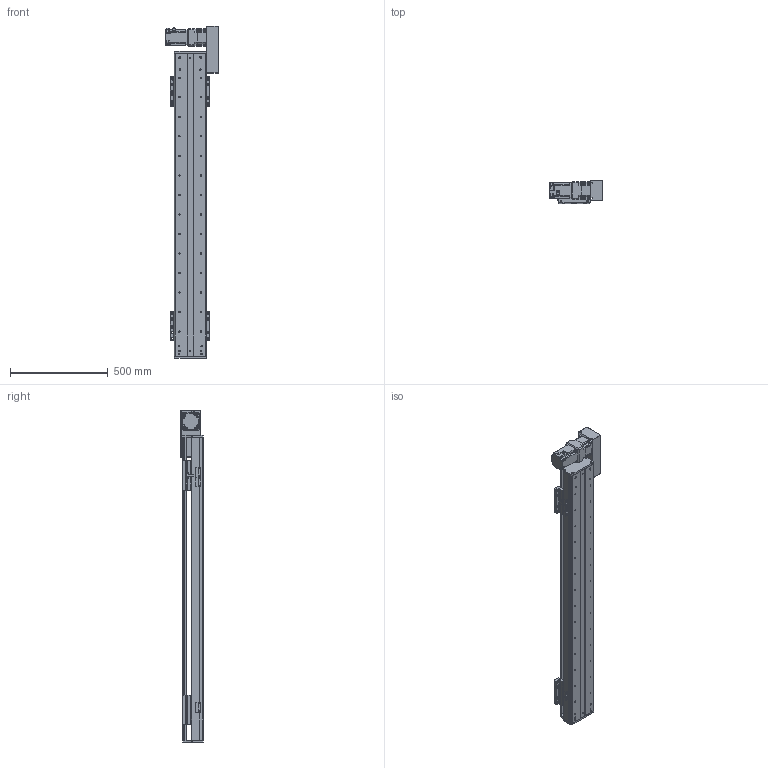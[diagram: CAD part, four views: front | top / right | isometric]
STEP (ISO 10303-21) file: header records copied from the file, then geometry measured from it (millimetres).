
FILE_DESCRIPTION(/* description */ (''),/* implementation_level */ '2;1');
FILE_NAME(/* name */ 'C:\Users\PC\Desktop\3D도면\STEP\DSB165-R7G-W1200-L.stp',/* time_stamp */ '2018-06-25T14:39:45+09:00',/* author */ ('PC'),/* organization */ (''),/* preprocessor_version */ 'ST-DEVELOPER v16.5',/* originating_system */ 'Autodesk Inventor 2017',/* authorisation */ '');
FILE_SCHEMA (('AUTOMOTIVE_DESIGN { 1 0 10303 214 3 1 1 }'));
Length unit declared in the file: millimetre
Products named in the file (12): DSB165-L7G-W1200-R_MIR; DSB165-BASE-L_MIR; hg-kr73__MIR; ab0901-p0401300102_MIR; 11-DSB165 BELT COVER_MIR; 12-DSB165-REAR COVER_MIR; 14-DSB165-FRONT COVER_MIR; DSB165-UP COVER_MIR; DSB165-TABLE(MSB20S)_MIR; DSR165-SENSOR DOG_MIR; pm-y65_step_MIR; SENSOR BRACKET(EE-SX674A)_MIR
Assembly tree (16 placements, depth 2):
  DSB165-L7G-W1200-R_MIR
    DSB165-BASE-L_MIR
    hg-kr73__MIR
    ab0901-p0401300102_MIR
    11-DSB165 BELT COVER_MIR
    12-DSB165-REAR COVER_MIR
    14-DSB165-FRONT COVER_MIR
    DSB165-UP COVER_MIR
    DSB165-TABLE(MSB20S)_MIR  x2
    DSR165-SENSOR DOG_MIR
    pm-y65_step_MIR  x3
    SENSOR BRACKET(EE-SX674A)_MIR  x3
Bounding box: 270 x 115 x 1700 mm (x, y, z)
Volume: 9781234.1 mm3; surface area: 2270205.1 mm2
Topology: 17 solids, 17 shells, 1677 faces, 4504 edges, 2966 vertices
Faces by surface type: plane 921, cylinder 624, cone 120, sphere 8, torus 4
Full cylindrical faces by diameter (mm): 2.459 x20, 3.5 x6, 4.134 x42, 4.5 x18, 5 x27, 5.5 x36, 5.9 x4, 6 x4, 6.6 x14, 6.647 x48, 6.8 x1, 7 x4, 7.6 x4, 8.4 x1, 8.5 x24, 8.7 x1, 9.5 x32, 11 x6, 14 x16, 19 x1, 22 x1, 24 x1, 25 x1, 28 x1, 67 x1, 70 x2, 80 x1
Entity records: 36340 total; most frequent: DIRECTION 6298, CARTESIAN_POINT 6099, ORIENTED_EDGE 5554, EDGE_CURVE 2777, AXIS2_PLACEMENT_3D 2319, VERTEX_POINT 1982, EDGE_LOOP 1751, LINE 1660
